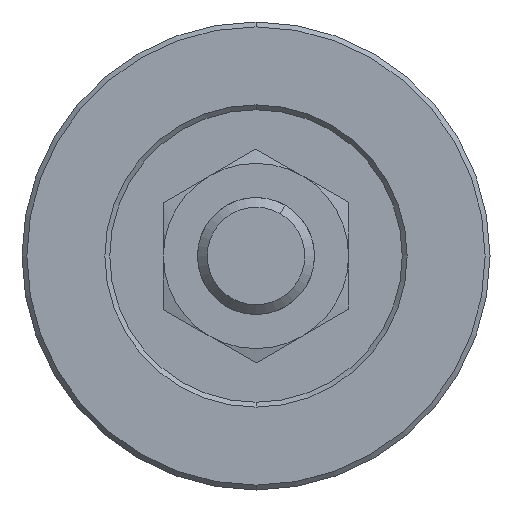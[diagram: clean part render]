
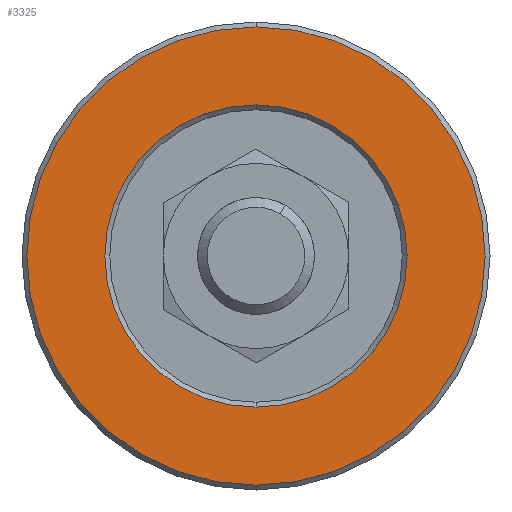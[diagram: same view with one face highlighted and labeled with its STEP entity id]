
A CAD part, front view. The second image highlights one B-rep face of the part: STEP entity #3325.
In plain terms, the highlighted planar face has unit normal (0, -1, 0).
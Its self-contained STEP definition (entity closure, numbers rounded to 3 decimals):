
#60 = CARTESIAN_POINT ( 'NONE',  ( 0., 0., 0. ) ) ;
#454 = AXIS2_PLACEMENT_3D ( 'NONE', #3776, #2625, #5088 ) ;
#487 = CARTESIAN_POINT ( 'NONE',  ( 0., 0., 0. ) ) ;
#1084 = DIRECTION ( 'NONE',  ( 0., 0., -1. ) ) ;
#1639 = ORIENTED_EDGE ( 'NONE', *, *, #3409, .T. ) ;
#1677 = DIRECTION ( 'NONE',  ( 0., 1., 0. ) ) ;
#1888 = CIRCLE ( 'NONE', #3271, 15.5 ) ;
#1903 = EDGE_CURVE ( 'NONE', #7625, #5920, #1951, .T. ) ;
#1925 = VERTEX_POINT ( 'NONE', #6023 ) ;
#1951 = CIRCLE ( 'NONE', #3928, 15.5 ) ;
#2015 = VERTEX_POINT ( 'NONE', #7861 ) ;
#2199 = DIRECTION ( 'NONE',  ( 0., 0., -1. ) ) ;
#2487 = CARTESIAN_POINT ( 'NONE',  ( 15., 0., 0. ) ) ;
#2625 = DIRECTION ( 'NONE',  ( 0., -1., 0. ) ) ;
#2678 = EDGE_LOOP ( 'NONE', ( #5313, #2865 ) ) ;
#2865 = ORIENTED_EDGE ( 'NONE', *, *, #1903, .T. ) ;
#3271 = AXIS2_PLACEMENT_3D ( 'NONE', #60, #4366, #5002 ) ;
#3325 = ADVANCED_FACE ( 'NONE', ( #6145, #5669 ), #4621, .T. ) ;
#3337 = CARTESIAN_POINT ( 'NONE',  ( 0., 0., 0. ) ) ;
#3409 = EDGE_CURVE ( 'NONE', #1925, #2015, #4654, .T. ) ;
#3482 = EDGE_LOOP ( 'NONE', ( #1639, #5992 ) ) ;
#3504 = CIRCLE ( 'NONE', #4858, 23.5 ) ;
#3776 = CARTESIAN_POINT ( 'NONE',  ( 0., 0., 0. ) ) ;
#3866 = EDGE_CURVE ( 'NONE', #5920, #7625, #1888, .T. ) ;
#3928 = AXIS2_PLACEMENT_3D ( 'NONE', #487, #1677, #1084 ) ;
#4366 = DIRECTION ( 'NONE',  ( 0., 1., 0. ) ) ;
#4621 = PLANE ( 'NONE',  #6247 ) ;
#4654 = CIRCLE ( 'NONE', #454, 23.5 ) ;
#4858 = AXIS2_PLACEMENT_3D ( 'NONE', #3337, #5878, #2199 ) ;
#4896 = DIRECTION ( 'NONE',  ( 0., -1., 0. ) ) ;
#5002 = DIRECTION ( 'NONE',  ( 0., 0., -1. ) ) ;
#5088 = DIRECTION ( 'NONE',  ( 0., 0., -1. ) ) ;
#5313 = ORIENTED_EDGE ( 'NONE', *, *, #3866, .T. ) ;
#5523 = DIRECTION ( 'NONE',  ( 0., 0., -1. ) ) ;
#5669 = FACE_BOUND ( 'NONE', #2678, .T. ) ;
#5878 = DIRECTION ( 'NONE',  ( 0., -1., 0. ) ) ;
#5920 = VERTEX_POINT ( 'NONE', #7109 ) ;
#5992 = ORIENTED_EDGE ( 'NONE', *, *, #7948, .T. ) ;
#6023 = CARTESIAN_POINT ( 'NONE',  ( 0., 0., 23.5 ) ) ;
#6145 = FACE_OUTER_BOUND ( 'NONE', #3482, .T. ) ;
#6247 = AXIS2_PLACEMENT_3D ( 'NONE', #2487, #4896, #5523 ) ;
#6695 = CARTESIAN_POINT ( 'NONE',  ( 0., 0., 15.5 ) ) ;
#7109 = CARTESIAN_POINT ( 'NONE',  ( 0., 0., -15.5 ) ) ;
#7625 = VERTEX_POINT ( 'NONE', #6695 ) ;
#7861 = CARTESIAN_POINT ( 'NONE',  ( 0., 0., -23.5 ) ) ;
#7948 = EDGE_CURVE ( 'NONE', #2015, #1925, #3504, .T. ) ;
